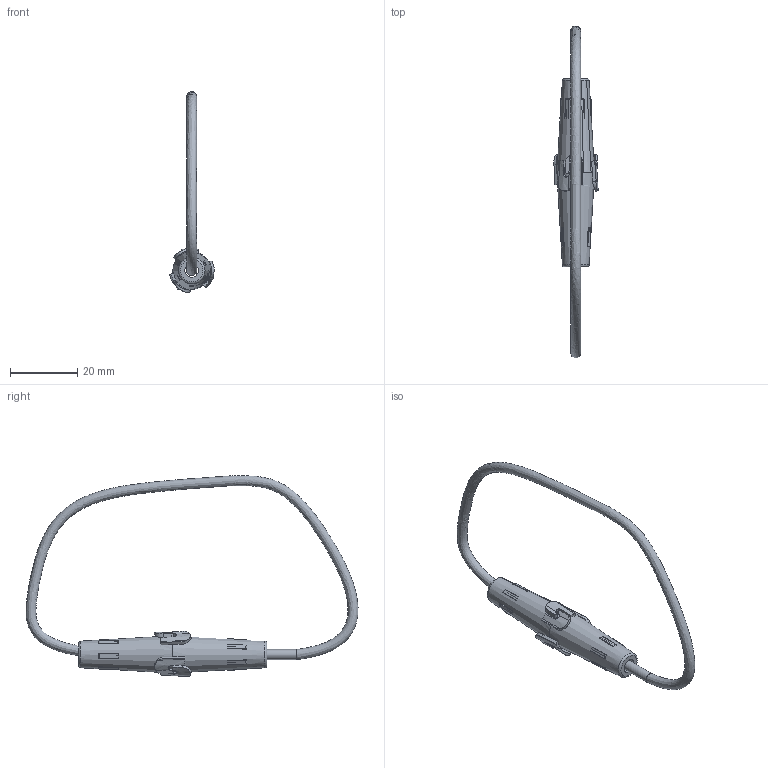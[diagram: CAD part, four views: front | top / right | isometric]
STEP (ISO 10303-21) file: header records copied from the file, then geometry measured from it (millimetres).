
FILE_DESCRIPTION(/* description */ (''),/* implementation_level */ '2;1');
FILE_NAME(/* name */ 'C:\Users\Hani\Desktop\work\LPA-08\LPA-08.stp',/* time_stamp */ '2021-07-24T10:02:12-07:00',/* author */ ('Hani'),/* organization */ (''),/* preprocessor_version */ 'ST-DEVELOPER v17',/* originating_system */ 'Autodesk Inventor 2019',/* authorisation */ '');
FILE_SCHEMA (('AUTOMOTIVE_DESIGN { 1 0 10303 214 3 1 1 }'));
Length unit declared in the file: inch
Products named in the file (4): LPC-08; LPC-08_1; wire; LPA-08-top
Assembly tree (3 placements, depth 2):
  LPC-08
    LPC-08_1
    wire
    LPA-08-top
Bounding box: 13.17 x 98.53 x 59.58 mm (x, y, z)
Volume: 3657 mm3; surface area: 5754.5 mm2
Topology: 17 solids, 17 shells, 391 faces, 1013 edges, 658 vertices
Faces by surface type: bspline 124, plane 123, cylinder 83, cone 35, torus 26
Full cylindrical faces by diameter (mm): 2.997 x1, 4.064 x2
Entity records: 15549 total; most frequent: CARTESIAN_POINT 6583, ORIENTED_EDGE 2048, DIRECTION 1474, EDGE_CURVE 1024, VERTEX_POINT 680, AXIS2_PLACEMENT_3D 520, LINE 434, VECTOR 434
